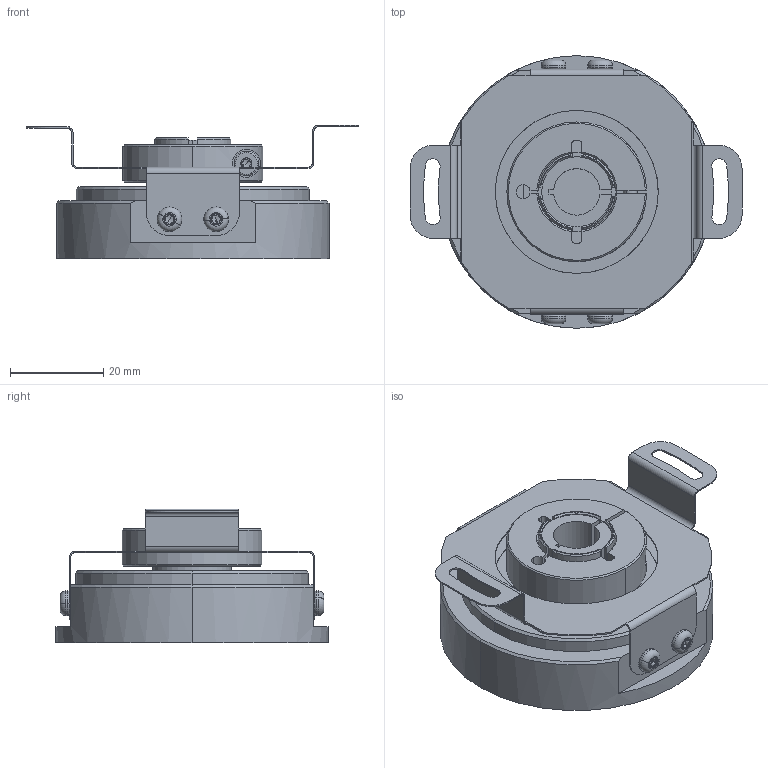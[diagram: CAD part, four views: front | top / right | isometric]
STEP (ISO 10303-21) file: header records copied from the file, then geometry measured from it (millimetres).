
FILE_DESCRIPTION (( 'STEP AP214' ), '1' );
FILE_NAME ('OCD-B10S-C5Y-N.STEP', '2013-03-07T14:54:30', ( '' ), ( '' ), 'SwSTEP 2.0', 'SolidWorks 2006104', '' );
FILE_SCHEMA (( 'AUTOMOTIVE_DESIGN' ));
Length unit declared in the file: millimetre
Products named in the file (1): OCD-B10S-C5Y-N
Bounding box: 71.24 x 58.5 x 28.73 mm (x, y, z)
Surface area: 22645 mm2 (no closed solid volume)
Topology: 0 solids, 15 shells, 553 faces, 1398 edges, 881 vertices
Faces by surface type: cylinder 192, plane 160, cone 147, torus 50, bspline 4
Entity records: 24280 total; most frequent: CARTESIAN_POINT 4616, DIRECTION 3005, ORIENTED_EDGE 2752, EDGE_CURVE 1378, AXIS2_PLACEMENT_3D 1265, VERTEX_POINT 881, CIRCLE 715, EDGE_LOOP 609
